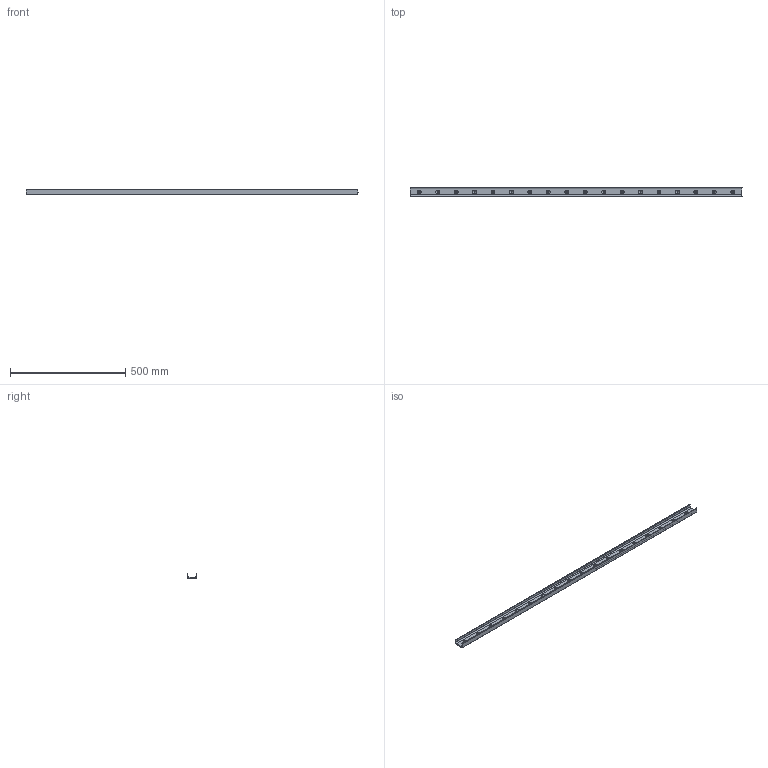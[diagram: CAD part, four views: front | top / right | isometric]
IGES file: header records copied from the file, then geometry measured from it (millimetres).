
Start section: SolidWorks IGES file using analytic representation for surfaces
Global section: file name: C:\Users\IanO\Desktop\43\L1943.ULV43_v2_20180121_IGES\L1943.ULV43-1440.igs; native system: SolidWorks 2017; preprocessor: SolidWorks 2017; author: IanO; date: 190121.090059; units: millimetre
Bounding box: 1440 x 43 x 21 mm (x, y, z)
Surface area: 223760.8 mm2 (no closed solid volume)
Topology: 0 solids, 0 shells, 98 faces, 1734 edges, 1734 vertices
Faces by surface type: revolution 85, bspline 13
